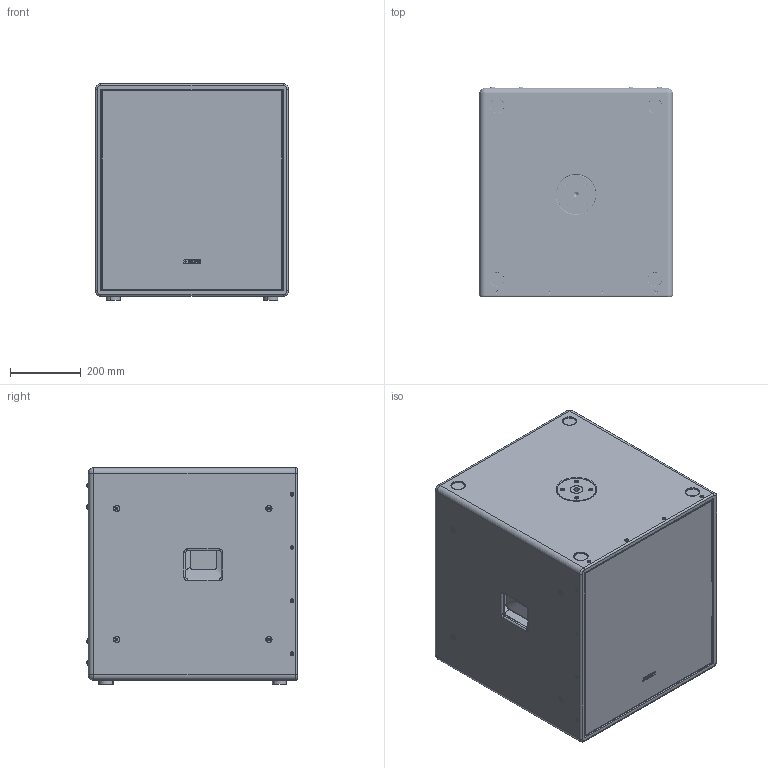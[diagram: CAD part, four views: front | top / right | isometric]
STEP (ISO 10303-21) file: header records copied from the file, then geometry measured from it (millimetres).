
FILE_DESCRIPTION(/* description */ (''),/* implementation_level */ '2;1');
FILE_NAME(/* name */ 'GS2',/* time_stamp */ '2026-03-12T08:46:28+01:00',/* author */ (''),/* organization */ (''),/* preprocessor_version */ 'ST-DEVELOPER v19.2',/* originating_system */ 'Rhino 8.24',/* authorisation */ '');
FILE_SCHEMA (('CONFIG_CONTROL_DESIGN'));
Length unit declared in the file: millimetre
Products named in the file (16): Document; Maniglia; VTA2.9X13STIN0; MCP032P04GRZ_A; GWIRE016; SPEAKONEUTRIKAUTO; MMFTT08X23; VTM04X20BTIN0; hexa csunk flathd screw_iso_ISO 14581 M8x30x30-N; M8X20TBI; hexa csunk flathd screw_iso_ISO 14581 M5x25x25-N; hexa csunk flathd screw_iso_ISO 14581 M6x30x30-N; MCA026S01_01; MCP026S03GRZA; Flangia; KGEARLOGOB50_02
Bounding box: 545.5 x 594.7 x 611 mm (x, y, z)
Volume: 31733658.3 mm3; surface area: 5110925.6 mm2
Topology: 75 solids, 75 shells, 3225 faces, 8192 edges, 5161 vertices
Faces by surface type: cylinder 1751, bspline 739, plane 735
Entity records: 56548 total; most frequent: CARTESIAN_POINT 28954, ORIENTED_EDGE 6028, DIRECTION 3561, EDGE_CURVE 3014, AXIS2_PLACEMENT_3D 2259, VERTEX_POINT 1904, B_SPLINE_CURVE_WITH_KNOTS 1616, EDGE_LOOP 1486
